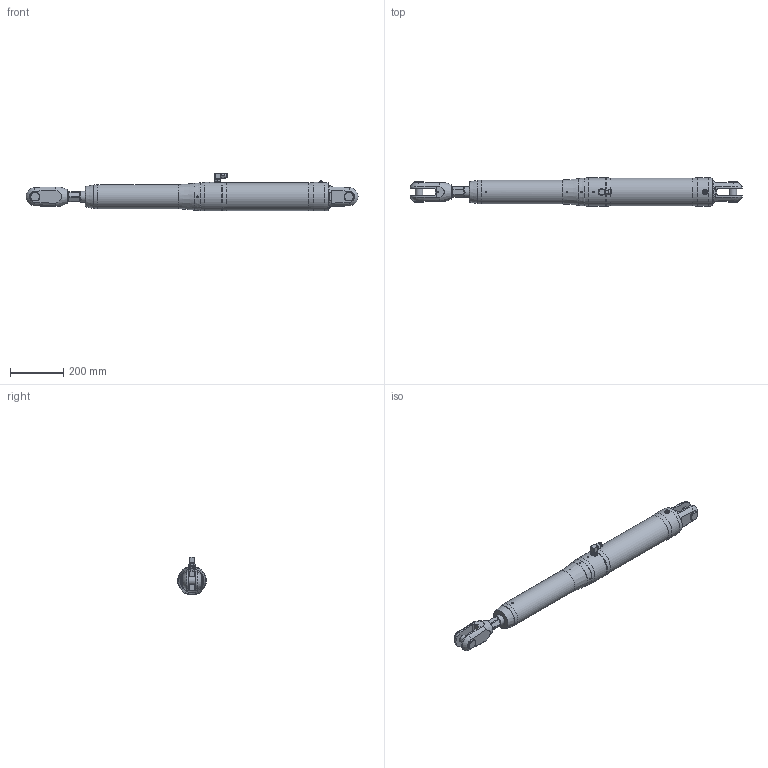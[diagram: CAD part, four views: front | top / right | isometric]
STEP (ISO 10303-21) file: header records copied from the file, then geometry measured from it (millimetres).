
FILE_DESCRIPTION(/* description */ (''),/* implementation_level */ '2;1');
FILE_NAME(/* name */ 'Q:\AA BRAND HYDRAULICS\HYDRAULICS FAMILY DIRECTORY\HYDRAULICS\CYLINDERS\MECHANICAL LOCK RAMS\ALUMINIUM - STAINLESS SINGLE ACTING (-0012 To -0150)\MSA-0048-S0300-NP-71\MSA-0048-S0300-NP-71 (Closed).stp',/* time_stamp */ '2018-04-25T16:27:14+01:00',/* author */ ('Lorena'),/* organization */ (''),/* preprocessor_version */ 'ST-DEVELOPER v17',/* originating_system */ 'Autodesk Inventor 2018',/* authorisation */ '');
FILE_SCHEMA (('AUTOMOTIVE_DESIGN { 1 0 10303 214 3 1 1 }'));
Length unit declared in the file: millimetre
Products named in the file (1): MSA-0048-S0300-NP-71 (Closed)
Bounding box: 1248.37 x 107.2 x 142.75 mm (x, y, z)
Volume: 7878402.8 mm3; surface area: 407693.6 mm2
Topology: 2 solids, 4 shells, 493 faces, 1291 edges, 840 vertices
Faces by surface type: plane 279, cone 124, cylinder 76, torus 6, sphere 4, bspline 4
Full cylindrical faces by diameter (mm): 4 x1, 4.134 x1, 4.2 x3, 5 x2, 6 x4, 7 x1, 7.5 x1, 8.1 x1, 9 x1, 10 x2, 14 x1, 14.35 x1, 14.662 x1, 15 x2, 15.662 x1, 16 x2, 16.662 x2, 18 x2, 21.4 x3, 25 x1, 25.5 x1, 28.58 x2, 35.725 x2, 40 x2, 41 x2, 44 x1, 90 x1, 104.2 x1, 107.2 x4
Entity records: 16735 total; most frequent: CARTESIAN_POINT 4225, ORIENTED_EDGE 2564, DIRECTION 2497, EDGE_CURVE 1282, AXIS2_PLACEMENT_3D 960, VERTEX_POINT 841, LINE 577, VECTOR 577
